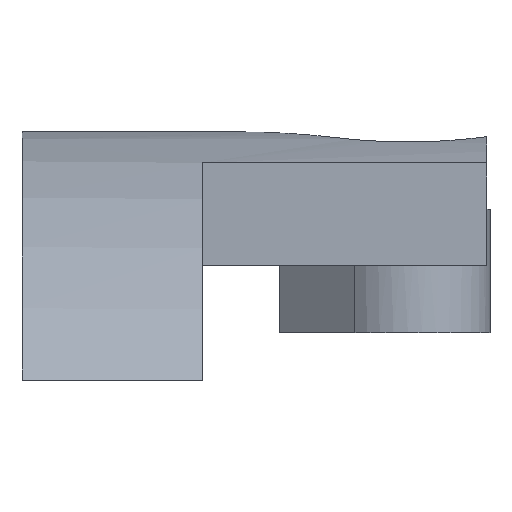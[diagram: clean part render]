
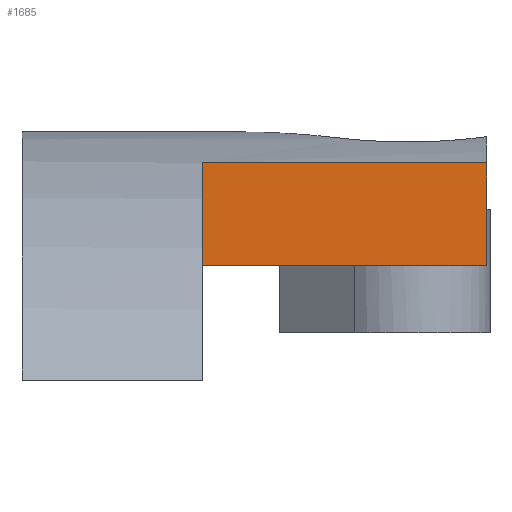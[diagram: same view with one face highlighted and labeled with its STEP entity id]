
A CAD part, front view. The second image highlights one B-rep face of the part: STEP entity #1685.
In plain terms, the highlighted planar face has unit normal (0, -1, 0).
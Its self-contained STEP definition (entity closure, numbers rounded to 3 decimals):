
#33 = CYLINDRICAL_SURFACE('',#34,18.85);
#34 = AXIS2_PLACEMENT_3D('',#35,#36,#37);
#35 = CARTESIAN_POINT('',(90.3,0.,0.));
#36 = DIRECTION('',(1.,0.,0.));
#37 = DIRECTION('',(-0.,0.,1.));
#84 = VERTEX_POINT('',#85);
#85 = CARTESIAN_POINT('',(96.,-6.,17.87));
#99 = PLANE('',#100);
#100 = AXIS2_PLACEMENT_3D('',#101,#102,#103);
#101 = CARTESIAN_POINT('',(96.,0.,0.));
#102 = DIRECTION('',(1.,0.,0.));
#103 = DIRECTION('',(-0.,0.,1.));
#111 = EDGE_CURVE('',#84,#112,#114,.T.);
#112 = VERTEX_POINT('',#113);
#113 = CARTESIAN_POINT('',(105.,-6.,17.87));
#114 = SURFACE_CURVE('',#115,(#119,#125),.PCURVE_S1.);
#115 = LINE('',#116,#117);
#116 = CARTESIAN_POINT('',(96.,-6.,17.87));
#117 = VECTOR('',#118,1.);
#118 = DIRECTION('',(1.,0.,0.));
#119 = PCURVE('',#33,#120);
#120 = DEFINITIONAL_REPRESENTATION('',(#121),#124);
#121 = B_SPLINE_CURVE_WITH_KNOTS('',1,(#122,#123),.UNSPECIFIED.,.F.,.F.,
  (2,2),(0.,9.),.PIECEWISE_BEZIER_KNOTS.);
#122 = CARTESIAN_POINT('',(6.607,5.7));
#123 = CARTESIAN_POINT('',(6.607,14.7));
#124 = ( GEOMETRIC_REPRESENTATION_CONTEXT(2) 
PARAMETRIC_REPRESENTATION_CONTEXT() REPRESENTATION_CONTEXT('2D SPACE',''
  ) );
#125 = PCURVE('',#126,#131);
#126 = PLANE('',#127);
#127 = AXIS2_PLACEMENT_3D('',#128,#129,#130);
#128 = CARTESIAN_POINT('',(96.,-6.,0.));
#129 = DIRECTION('',(-0.,1.,0.));
#130 = DIRECTION('',(0.,0.,1.));
#131 = DEFINITIONAL_REPRESENTATION('',(#132),#135);
#132 = B_SPLINE_CURVE_WITH_KNOTS('',1,(#133,#134),.UNSPECIFIED.,.F.,.F.,
  (2,2),(0.,9.),.PIECEWISE_BEZIER_KNOTS.);
#133 = CARTESIAN_POINT('',(17.87,0.));
#134 = CARTESIAN_POINT('',(17.87,9.));
#135 = ( GEOMETRIC_REPRESENTATION_CONTEXT(2) 
PARAMETRIC_REPRESENTATION_CONTEXT() REPRESENTATION_CONTEXT('2D SPACE',''
  ) );
#153 = PLANE('',#154);
#154 = AXIS2_PLACEMENT_3D('',#155,#156,#157);
#155 = CARTESIAN_POINT('',(105.,0.,0.));
#156 = DIRECTION('',(1.,0.,0.));
#157 = DIRECTION('',(-0.,0.,1.));
#541 = CYLINDRICAL_SURFACE('',#542,15.8);
#542 = AXIS2_PLACEMENT_3D('',#543,#544,#545);
#543 = CARTESIAN_POINT('',(89.3,0.,0.));
#544 = DIRECTION('',(1.,0.,0.));
#545 = DIRECTION('',(-0.,0.,1.));
#623 = VERTEX_POINT('',#624);
#624 = CARTESIAN_POINT('',(96.,-6.,14.616));
#645 = EDGE_CURVE('',#623,#646,#648,.T.);
#646 = VERTEX_POINT('',#647);
#647 = CARTESIAN_POINT('',(105.,-6.,14.616));
#648 = SURFACE_CURVE('',#649,(#653,#659),.PCURVE_S1.);
#649 = LINE('',#650,#651);
#650 = CARTESIAN_POINT('',(95.,-6.,14.616));
#651 = VECTOR('',#652,1.);
#652 = DIRECTION('',(1.,0.,0.));
#653 = PCURVE('',#541,#654);
#654 = DEFINITIONAL_REPRESENTATION('',(#655),#658);
#655 = B_SPLINE_CURVE_WITH_KNOTS('',1,(#656,#657),.UNSPECIFIED.,.F.,.F.,
  (2,2),(1.,10.),.PIECEWISE_BEZIER_KNOTS.);
#656 = CARTESIAN_POINT('',(6.673,6.7));
#657 = CARTESIAN_POINT('',(6.673,15.7));
#658 = ( GEOMETRIC_REPRESENTATION_CONTEXT(2) 
PARAMETRIC_REPRESENTATION_CONTEXT() REPRESENTATION_CONTEXT('2D SPACE',''
  ) );
#659 = PCURVE('',#126,#660);
#660 = DEFINITIONAL_REPRESENTATION('',(#661),#664);
#661 = B_SPLINE_CURVE_WITH_KNOTS('',1,(#662,#663),.UNSPECIFIED.,.F.,.F.,
  (2,2),(1.,10.),.PIECEWISE_BEZIER_KNOTS.);
#662 = CARTESIAN_POINT('',(14.616,0.));
#663 = CARTESIAN_POINT('',(14.616,9.));
#664 = ( GEOMETRIC_REPRESENTATION_CONTEXT(2) 
PARAMETRIC_REPRESENTATION_CONTEXT() REPRESENTATION_CONTEXT('2D SPACE',''
  ) );
#1661 = EDGE_CURVE('',#646,#112,#1662,.T.);
#1662 = SURFACE_CURVE('',#1663,(#1667,#1674),.PCURVE_S1.);
#1663 = LINE('',#1664,#1665);
#1664 = CARTESIAN_POINT('',(105.,-6.,0.));
#1665 = VECTOR('',#1666,1.);
#1666 = DIRECTION('',(0.,0.,1.));
#1667 = PCURVE('',#153,#1668);
#1668 = DEFINITIONAL_REPRESENTATION('',(#1669),#1673);
#1669 = LINE('',#1670,#1671);
#1670 = CARTESIAN_POINT('',(0.,6.));
#1671 = VECTOR('',#1672,1.);
#1672 = DIRECTION('',(1.,0.));
#1673 = ( GEOMETRIC_REPRESENTATION_CONTEXT(2) 
PARAMETRIC_REPRESENTATION_CONTEXT() REPRESENTATION_CONTEXT('2D SPACE',''
  ) );
#1674 = PCURVE('',#126,#1675);
#1675 = DEFINITIONAL_REPRESENTATION('',(#1676),#1680);
#1676 = LINE('',#1677,#1678);
#1677 = CARTESIAN_POINT('',(0.,9.));
#1678 = VECTOR('',#1679,1.);
#1679 = DIRECTION('',(1.,0.));
#1680 = ( GEOMETRIC_REPRESENTATION_CONTEXT(2) 
PARAMETRIC_REPRESENTATION_CONTEXT() REPRESENTATION_CONTEXT('2D SPACE',''
  ) );
#1685 = ADVANCED_FACE('',(#1686),#126,.F.);
#1686 = FACE_BOUND('',#1687,.F.);
#1687 = EDGE_LOOP('',(#1688,#1689,#1690,#1711));
#1688 = ORIENTED_EDGE('',*,*,#1661,.F.);
#1689 = ORIENTED_EDGE('',*,*,#645,.F.);
#1690 = ORIENTED_EDGE('',*,*,#1691,.T.);
#1691 = EDGE_CURVE('',#623,#84,#1692,.T.);
#1692 = SURFACE_CURVE('',#1693,(#1697,#1704),.PCURVE_S1.);
#1693 = LINE('',#1694,#1695);
#1694 = CARTESIAN_POINT('',(96.,-6.,0.));
#1695 = VECTOR('',#1696,1.);
#1696 = DIRECTION('',(0.,0.,1.));
#1697 = PCURVE('',#126,#1698);
#1698 = DEFINITIONAL_REPRESENTATION('',(#1699),#1703);
#1699 = LINE('',#1700,#1701);
#1700 = CARTESIAN_POINT('',(0.,0.));
#1701 = VECTOR('',#1702,1.);
#1702 = DIRECTION('',(1.,0.));
#1703 = ( GEOMETRIC_REPRESENTATION_CONTEXT(2) 
PARAMETRIC_REPRESENTATION_CONTEXT() REPRESENTATION_CONTEXT('2D SPACE',''
  ) );
#1704 = PCURVE('',#99,#1705);
#1705 = DEFINITIONAL_REPRESENTATION('',(#1706),#1710);
#1706 = LINE('',#1707,#1708);
#1707 = CARTESIAN_POINT('',(0.,6.));
#1708 = VECTOR('',#1709,1.);
#1709 = DIRECTION('',(1.,0.));
#1710 = ( GEOMETRIC_REPRESENTATION_CONTEXT(2) 
PARAMETRIC_REPRESENTATION_CONTEXT() REPRESENTATION_CONTEXT('2D SPACE',''
  ) );
#1711 = ORIENTED_EDGE('',*,*,#111,.T.);
